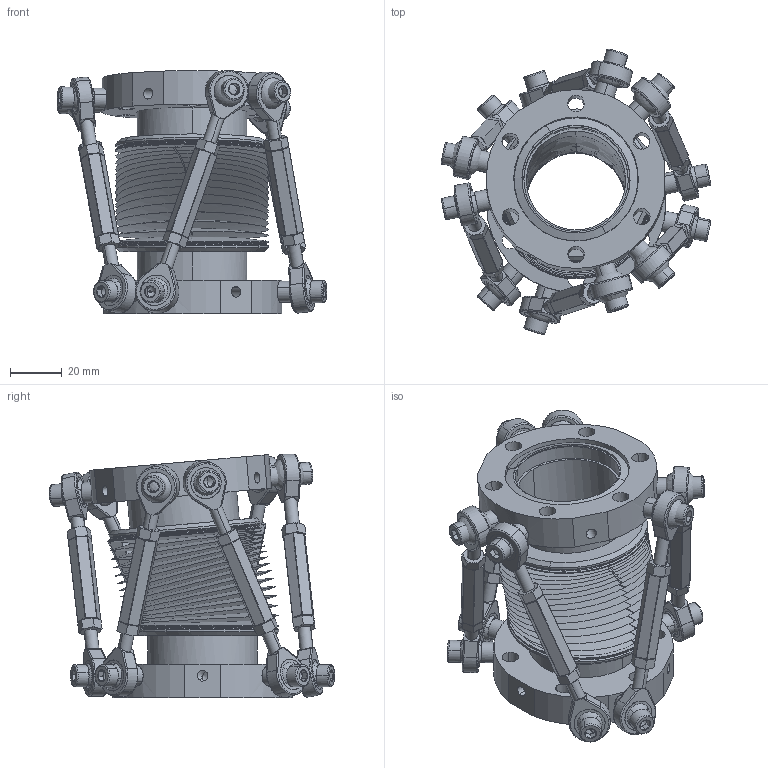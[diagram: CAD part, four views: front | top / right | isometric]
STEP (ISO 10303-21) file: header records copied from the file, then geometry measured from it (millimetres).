
FILE_DESCRIPTION(('Confidential','CAx-IF Rec.Pracs.--- Model Styling and Organization---1.2---2011-12-15'),'2;1');
FILE_NAME('W:\KONSTRUKTION\PRODUCTS\PA\PA40HEX\PA40HEX\PA40(HEX)_lateral_5mm_angular_5°.stp','2024-04-19T11:35:15+00:00',('none'),('Ferrovac AG'),'CATIA Version 5 Release 21 SP 6 (IN-10)','CATIA V5 STEP AP214','PROPERTY OF FERROVAC AG');
FILE_SCHEMA(('AUTOMOTIVE_DESIGN { 1 0 10303 214 1 1 1 1 }'));
Products named in the file (1): PA40(HEX)_lateral_5mm_angular_5°
Bounding box: 104.29 x 110.4 x 94.15 mm (x, y, z)
Volume: 141655.3 mm3; surface area: 125148.6 mm2
Topology: 1 solids, 55 shells, 2119 faces, 5464 edges, 3218 vertices
Faces by surface type: plane 656, cylinder 490, cone 398, sphere 319, bspline 128, torus 128
Entity records: 76351 total; most frequent: CARTESIAN_POINT 31058, ORIENTED_EDGE 10376, DIRECTION 6903, EDGE_CURVE 5188, AXIS2_PLACEMENT_3D 3610, VERTEX_POINT 3218, EDGE_LOOP 2328, ADVANCED_FACE 2119
